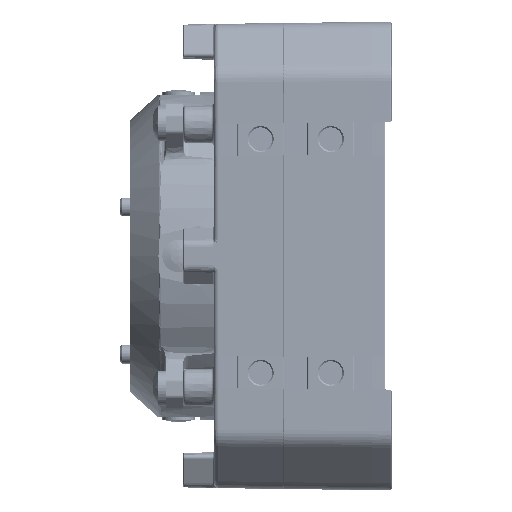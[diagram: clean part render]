
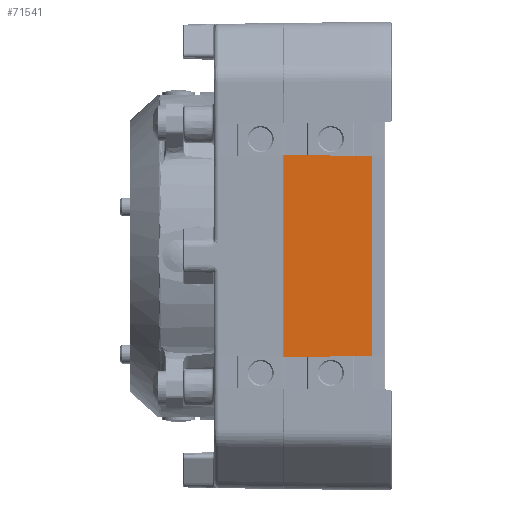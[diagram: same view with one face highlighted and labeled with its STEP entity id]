
A CAD part, front view. The second image highlights one B-rep face of the part: STEP entity #71541.
In plain terms, the highlighted planar face has unit normal (-0.009, -1, 0).
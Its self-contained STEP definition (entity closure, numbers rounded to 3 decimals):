
#43180=DIRECTION('',(0.,0.,1.));
#43181=VECTOR('',#43180,42.818);
#43182=CARTESIAN_POINT('',(0.,-50.016,-21.409));
#43183=LINE('',#43182,#43181);
#54490=CARTESIAN_POINT('',(-18.802,-49.852,
21.573));
#54502=DIRECTION('',(-1.,0.009,0.009));
#54503=VECTOR('',#54502,18.803);
#54504=CARTESIAN_POINT('',(0.,-50.016,21.409));
#54505=LINE('',#54504,#54503);
#54509=DIRECTION('',(0.,0.,1.));
#54510=VECTOR('',#54509,43.147);
#54511=CARTESIAN_POINT('',(-18.802,-49.852,
-21.573));
#54512=LINE('',#54511,#54510);
#54516=DIRECTION('',(-1.,0.009,-0.009));
#54517=VECTOR('',#54516,18.803);
#54518=CARTESIAN_POINT('',(0.,-50.016,-21.409));
#54519=LINE('',#54518,#54517);
#58380=CARTESIAN_POINT('',(0.,-50.016,-21.409));
#58381=CARTESIAN_POINT('',(0.,-50.016,21.409));
#58382=VERTEX_POINT('',#58380);
#58383=VERTEX_POINT('',#58381);
#58615=VERTEX_POINT('',#54490);
#58616=CARTESIAN_POINT('',(-18.802,-49.852,
-21.573));
#58617=VERTEX_POINT('',#58616);
#71529=CARTESIAN_POINT('',(-19.,-49.85,-22.815));
#71530=DIRECTION('',(-0.009,-1.,0.));
#71531=DIRECTION('',(0.,0.,-1.));
#71532=AXIS2_PLACEMENT_3D('',#71529,#71530,#71531);
#71533=PLANE('',#71532);
#71534=ORIENTED_EDGE('',*,*,#71521,.T.);
#71535=ORIENTED_EDGE('',*,*,#71510,.F.);
#71536=ORIENTED_EDGE('',*,*,#59294,.F.);
#71538=ORIENTED_EDGE('',*,*,#71537,.T.);
#71539=EDGE_LOOP('',(#71534,#71535,#71536,#71538));
#71540=FACE_OUTER_BOUND('',#71539,.F.);
#59294=EDGE_CURVE('',#58382,#58383,#43183,.T.);
#71510=EDGE_CURVE('',#58383,#58615,#54505,.T.);
#71521=EDGE_CURVE('',#58617,#58615,#54512,.T.);
#71537=EDGE_CURVE('',#58382,#58617,#54519,.T.);
#71541=ADVANCED_FACE('',(#71540),#71533,.T.);
